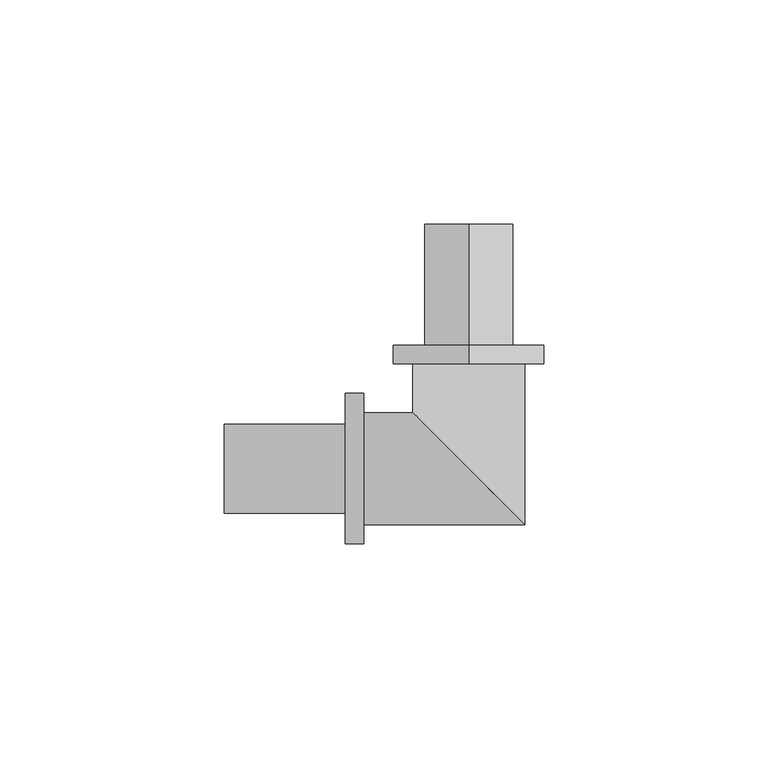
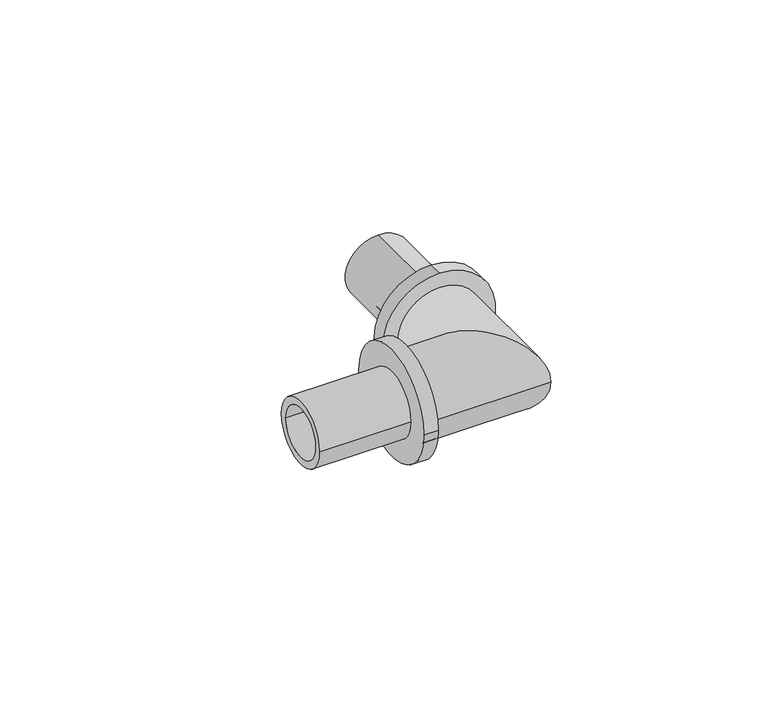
"""IFC4 building model written with IfcOpenShell, lengths in millimetres: pipe fitting geometry, RAUTITAN_Corner_LX : RTI LX C DN."""

from ifc_helpers import new_model, si_unit, frame, origin, place, context, project, spatial, polyline, circle_curve, ellipse_curve, source, transform, mapped, element, save
from ifc_brep_helpers import plane_surface, cylinder_surface, revolved_surface, advanced_brep


def pipe_fitting_bd0087ce(model_context):
    return source(origin(), model_context, "Body", "AdvancedBrep", [
        advanced_brep(
        [(0.0, 27.6, 16.8), (0.0, 27.6, -16.8), (0.0, 23.4, -16.8), (0.0, 23.4, 16.8), (0.0, 54.6, 9.9), (0.0, 54.6, -9.9), (0.0, 27.6, -9.9), (0.0, 27.6, 9.9), (0.0, 23.4, 7.6), (0.0, 23.4, -7.6), (0.0, 54.6, -7.6), (0.0, 54.6, 7.6)],
        [
            (0, 1, circle_curve(frame((0.0, 27.6, 0.0), z_axis=(0.0, -1.0, 0.0), x_axis=(0.0, 0.0, -1.0)), 16.8)),
            (1, 2),
            (2, 3, circle_curve(frame((0.0, 23.4, 0.0), z_axis=(0.0, 1.0, 0.0), x_axis=(0.0, 0.0, -1.0)), 16.8)),
            (3, 0),
            (4, 5, circle_curve(frame((0.0, 54.6, 0.0), z_axis=(0.0, -1.0, 0.0), x_axis=(0.0, 0.0, -1.0)), 9.9)),
            (5, 6),
            (6, 7, circle_curve(frame((0.0, 27.6, 0.0), z_axis=(0.0, 1.0, 0.0), x_axis=(0.0, 0.0, -1.0)), 9.9)),
            (7, 4),
            (8, 9, circle_curve(frame((0.0, 23.4, 0.0), z_axis=(0.0, -1.0, 0.0), x_axis=(0.0, 0.0, -1.0)), 7.6)),
            (9, 10),
            (10, 11, circle_curve(frame((0.0, 54.6, 0.0), z_axis=(0.0, 1.0, 0.0), x_axis=(0.0, 0.0, -1.0)), 7.6)),
            (11, 8),
            (1, 0, circle_curve(frame((0.0, 27.6, 0.0), z_axis=(0.0, -1.0, 0.0), x_axis=(0.0, 0.0, 1.0)), 16.8)),
            (3, 2, circle_curve(frame((0.0, 23.4, 0.0), z_axis=(0.0, 1.0, 0.0), x_axis=(0.0, 0.0, 1.0)), 16.8)),
            (6, 7, circle_curve(frame((0.0, 27.6, 0.0), z_axis=(0.0, -1.0, 0.0), x_axis=(0.0, 0.0, 1.0)), 9.9)),
            (5, 4, circle_curve(frame((0.0, 54.6, 0.0), z_axis=(0.0, -1.0, 0.0), x_axis=(0.0, 0.0, 1.0)), 9.9)),
            (10, 11, circle_curve(frame((0.0, 54.6, 0.0), z_axis=(0.0, -1.0, 0.0), x_axis=(0.0, 0.0, 1.0)), 7.6)),
            (9, 8, circle_curve(frame((0.0, 23.4, 0.0), z_axis=(0.0, -1.0, 0.0), x_axis=(0.0, 0.0, 1.0)), 7.6)),
        ],
        [
            cylinder_surface(frame((0.0, 23.4, 0.0), z_axis=(0.0, 1.0, 0.0), x_axis=(0.0, 0.0, -1.0)), 16.8),
            cylinder_surface(frame((0.0, 23.4, 0.0), z_axis=(0.0, 1.0, 0.0), x_axis=(0.0, 0.0, -1.0)), 9.9),
            revolved_surface(polyline([(0.0, 54.6, -7.6), (0.0, 23.4, -7.6)]), (0.0, 23.4, 0.0), (0.0, 1.0, 0.0)),
            cylinder_surface(frame((0.0, 23.4, 0.0), z_axis=(0.0, 1.0, 0.0), x_axis=(0.0, 0.0, 1.0)), 16.8),
            plane_surface(frame((0.0, 27.6, 0.0), z_axis=(0.0, 1.0, 0.0), x_axis=(0.0, 0.0, 1.0))),
            cylinder_surface(frame((0.0, 23.4, 0.0), z_axis=(0.0, 1.0, 0.0), x_axis=(0.0, 0.0, 1.0)), 9.9),
            plane_surface(frame((0.0, 54.6, 0.0), z_axis=(0.0, 1.0, 0.0), x_axis=(0.0, 0.0, 1.0))),
            revolved_surface(polyline([(0.0, 54.6, 7.6), (0.0, 23.4, 7.6)]), (0.0, 23.4, 0.0), (0.0, 1.0, 0.0)),
            plane_surface(frame((0.0, 23.4, 0.0), z_axis=(0.0, -1.0, 0.0), x_axis=(0.0, 0.0, 1.0))),
        ],
        [
            (0, [[1, 2, 3, 4]]),
            (1, [[5, 6, 7, 8]]),
            (2, [[9, 10, 11, 12]]),
            (3, [[13, -4, 14, -2]]),
            (4, [[-13, -1], [15, -7]]),
            (5, [[16, -8, -15, -6]]),
            (6, [[-16, -5], [17, -11]]),
            (7, [[18, -12, -17, -10]]),
            (8, [[-14, -3], [-18, -9]]),
        ],
    ),
        advanced_brep(
        [(-27.6, -16.8, 0.0), (-27.6, 16.8, 0.0), (-23.4, 16.8, 0.0), (-23.4, -16.8, 0.0), (-54.6, -9.9, 0.0), (-54.6, 9.9, 0.0), (-27.6, 9.9, 0.0), (-27.6, -9.9, 0.0), (-23.4, -7.6, 0.0), (-23.4, 7.6, 0.0), (-54.6, 7.6, 0.0), (-54.6, -7.6, 0.0)],
        [
            (0, 1, circle_curve(frame((-27.6, 0.0, 0.0), z_axis=(1.0, 0.0, 0.0), x_axis=(0.0, 1.0, 0.0)), 16.8)),
            (1, 2),
            (2, 3, circle_curve(frame((-23.4, 0.0, 0.0), z_axis=(-1.0, 0.0, 0.0), x_axis=(0.0, 1.0, 0.0)), 16.8)),
            (3, 0),
            (4, 5, circle_curve(frame((-54.6, 0.0, 0.0), z_axis=(1.0, 0.0, 0.0), x_axis=(0.0, 1.0, 0.0)), 9.9)),
            (5, 6),
            (6, 7, circle_curve(frame((-27.6, 0.0, 0.0), z_axis=(-1.0, 0.0, 0.0), x_axis=(0.0, 1.0, 0.0)), 9.9)),
            (7, 4),
            (8, 9, circle_curve(frame((-23.4, 0.0, 0.0), z_axis=(1.0, 0.0, 0.0), x_axis=(0.0, 1.0, 0.0)), 7.6)),
            (9, 10),
            (10, 11, circle_curve(frame((-54.6, 0.0, 0.0), z_axis=(-1.0, 0.0, 0.0), x_axis=(0.0, 1.0, 0.0)), 7.6)),
            (11, 8),
            (1, 0, circle_curve(frame((-27.6, 0.0, 0.0), z_axis=(1.0, 0.0, 0.0), x_axis=(0.0, -1.0, 0.0)), 16.8)),
            (3, 2, circle_curve(frame((-23.4, 0.0, 0.0), z_axis=(-1.0, 0.0, 0.0), x_axis=(0.0, -1.0, 0.0)), 16.8)),
            (6, 7, circle_curve(frame((-27.6, 0.0, 0.0), z_axis=(1.0, 0.0, 0.0), x_axis=(0.0, -1.0, 0.0)), 9.9)),
            (5, 4, circle_curve(frame((-54.6, 0.0, 0.0), z_axis=(1.0, 0.0, 0.0), x_axis=(0.0, -1.0, 0.0)), 9.9)),
            (10, 11, circle_curve(frame((-54.6, 0.0, 0.0), z_axis=(1.0, 0.0, 0.0), x_axis=(0.0, -1.0, 0.0)), 7.6)),
            (9, 8, circle_curve(frame((-23.4, 0.0, 0.0), z_axis=(1.0, 0.0, 0.0), x_axis=(0.0, -1.0, 0.0)), 7.6)),
        ],
        [
            cylinder_surface(frame((-23.4, 0.0, 0.0), z_axis=(-1.0, 0.0, 0.0), x_axis=(0.0, 1.0, 0.0)), 16.8),
            cylinder_surface(frame((-23.4, 0.0, 0.0), z_axis=(-1.0, 0.0, 0.0), x_axis=(0.0, 1.0, 0.0)), 9.9),
            revolved_surface(polyline([(-54.6, 7.6, 0.0), (-23.4, 7.6, 0.0)]), (-23.4, 0.0, 0.0), (-1.0, 0.0, 0.0)),
            cylinder_surface(frame((-23.4, 0.0, 0.0), z_axis=(-1.0, 0.0, 0.0), x_axis=(0.0, -1.0, 0.0)), 16.8),
            plane_surface(frame((-27.6, 0.0, 0.0), z_axis=(-1.0, 0.0, 0.0), x_axis=(0.0, -1.0, 0.0))),
            cylinder_surface(frame((-23.4, 0.0, 0.0), z_axis=(-1.0, 0.0, 0.0), x_axis=(0.0, -1.0, 0.0)), 9.9),
            plane_surface(frame((-54.6, 0.0, 0.0), z_axis=(-1.0, 0.0, 0.0), x_axis=(0.0, -1.0, 0.0))),
            revolved_surface(polyline([(-54.6, -7.6, 0.0), (-23.4, -7.6, 0.0)]), (-23.4, 0.0, 0.0), (-1.0, 0.0, 0.0)),
            plane_surface(frame((-23.4, 0.0, 0.0), z_axis=(1.0, 0.0, 0.0), x_axis=(0.0, -1.0, 0.0))),
        ],
        [
            (0, [[1, 2, 3, 4]]),
            (1, [[5, 6, 7, 8]]),
            (2, [[9, 10, 11, 12]]),
            (3, [[13, -4, 14, -2]]),
            (4, [[-13, -1], [15, -7]]),
            (5, [[16, -8, -15, -6]]),
            (6, [[-16, -5], [17, -11]]),
            (7, [[18, -12, -17, -10]]),
            (8, [[-14, -3], [-18, -9]]),
        ],
    ),
        advanced_brep(
        [(-23.4, -12.5, 0.0), (-23.4, 12.5, 0.0), (-23.4, -7.6, 0.0), (-23.4, 7.6, 0.0), (-7.6, 7.6, 0.0), (7.6, -7.6, 0.0), (12.5, 23.4, 0.0), (-12.5, 23.4, 0.0), (7.6, 23.4, 0.0), (-7.6, 23.4, 0.0), (12.5, -12.5, 0.0), (-12.5, 12.5, 0.0)],
        [
            (0, 1, circle_curve(frame((-23.4, 0.0, 0.0), z_axis=(-1.0, 0.0, 0.0), x_axis=(0.0, 1.0, 0.0)), 12.5)),
            (1, 0, circle_curve(frame((-23.4, 0.0, 0.0), z_axis=(-1.0, 0.0, 0.0), x_axis=(0.0, 1.0, 0.0)), 12.5)),
            (2, 3, circle_curve(frame((-23.4, 0.0, 0.0), z_axis=(1.0, 0.0, 0.0), x_axis=(0.0, 1.0, 0.0)), 7.6)),
            (3, 2, circle_curve(frame((-23.4, 0.0, 0.0), z_axis=(1.0, 0.0, 0.0), x_axis=(0.0, 1.0, 0.0)), 7.6)),
            (3, 4),
            (4, 5, ellipse_curve(frame((0.0, 0.0, 0.0), z_axis=(0.707106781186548, 0.7071067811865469, 0.0), x_axis=(0.7071067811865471, -0.7071067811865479, 0.0)), 10.7480231, 7.6)),
            (5, 2),
            (5, 4, ellipse_curve(frame((0.0, 0.0, 0.0), z_axis=(0.707106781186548, 0.7071067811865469, 0.0), x_axis=(0.7071067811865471, -0.7071067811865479, 0.0)), 10.7480231, 7.6)),
            (6, 7, circle_curve(frame((0.0, 23.4, 0.0), z_axis=(0.0, 1.0, 0.0), x_axis=(-1.0, 0.0, 0.0)), 12.5)),
            (7, 6, circle_curve(frame((0.0, 23.4, 0.0), z_axis=(0.0, 1.0, 0.0), x_axis=(-1.0, 0.0, 0.0)), 12.5)),
            (8, 9, circle_curve(frame((0.0, 23.4, 0.0), z_axis=(0.0, -1.0, 0.0), x_axis=(-1.0, 0.0, 0.0)), 7.6)),
            (9, 8, circle_curve(frame((0.0, 23.4, 0.0), z_axis=(0.0, -1.0, 0.0), x_axis=(-1.0, 0.0, 0.0)), 7.6)),
            (4, 9),
            (8, 5),
            (0, 10),
            (10, 11, ellipse_curve(frame((0.0, 0.0, 0.0), z_axis=(-0.707106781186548, -0.7071067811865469, 0.0), x_axis=(-0.7071067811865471, 0.7071067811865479, 0.0)), 17.6776695, 12.5)),
            (11, 1),
            (11, 10, ellipse_curve(frame((0.0, 0.0, 0.0), z_axis=(-0.707106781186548, -0.7071067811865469, 0.0), x_axis=(-0.7071067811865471, 0.7071067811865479, 0.0)), 17.6776695, 12.5)),
            (10, 6),
            (7, 11),
        ],
        [
            plane_surface(frame((-23.4, 0.0, 0.0), z_axis=(-1.0, 0.0, 0.0), x_axis=(0.0, 0.0, 1.0))),
            revolved_surface(polyline([(7.600000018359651, 7.6, 0.0), (-23.4, 7.6, 0.0)]), (-23.4, 0.0, 0.0), (1.0, 0.0, 0.0)),
            plane_surface(frame((0.0, 23.4, 0.0), z_axis=(0.0, 1.0, 0.0), x_axis=(0.0, 0.0, 1.0))),
            revolved_surface(polyline([(-7.6, 23.4, 0.0), (-7.6, -7.600000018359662, 0.0)]), (0.0, 0.0, 0.0), (0.0, 1.0, 0.0)),
            cylinder_surface(frame((-23.4, 0.0, 0.0), z_axis=(-1.0, 0.0, 0.0), x_axis=(0.0, 1.0, 0.0)), 12.5),
            cylinder_surface(frame((0.0, 0.0, 0.0), z_axis=(0.0, -1.0, 0.0), x_axis=(-1.0, 0.0, 0.0)), 12.5),
        ],
        [
            (0, [[1, 2], [3, 4]]),
            (1, [[-4, 5, 6, 7]]),
            (1, [[-3, -7, 8, -5]]),
            (2, [[9, 10], [11, 12]]),
            (3, [[-6, 13, -11, 14]]),
            (3, [[-8, -14, -12, -13]]),
            (4, [[-1, 15, 16, 17]]),
            (4, [[-2, -17, 18, -15]]),
            (5, [[-16, 19, -10, 20]]),
            (5, [[-18, -20, -9, -19]]),
        ],
    ),
    ])


if __name__ == "__main__":
    model = new_model("IFC4")
    model_context = context("Model", 3, world=origin())
    ifc_project = project(units=[si_unit("LENGTHUNIT", "METRE", prefix="MILLI")], contexts=[model_context])
    site = spatial("IfcSite", under=ifc_project)
    building = spatial("IfcBuilding", under=site)
    placement = place(None, origin())
    pipe_fitting_shape = pipe_fitting_bd0087ce(model_context)
    element("IfcPipeFitting", 1, ObjectType="RAUTITAN_Corner_LX : RTI LX C DN", at=placement, inside=building, context=model_context, shape_type="MappedRepresentation", body=[
        mapped(pipe_fitting_shape, transform((0.0, 0.0, 0.0), x_axis=(1.0, 0.0, 0.0), y_axis=(0.0, 1.0, 0.0), z_axis=(0.0, 0.0, 1.0))),
    ])
    save(model, "model.ifc")
